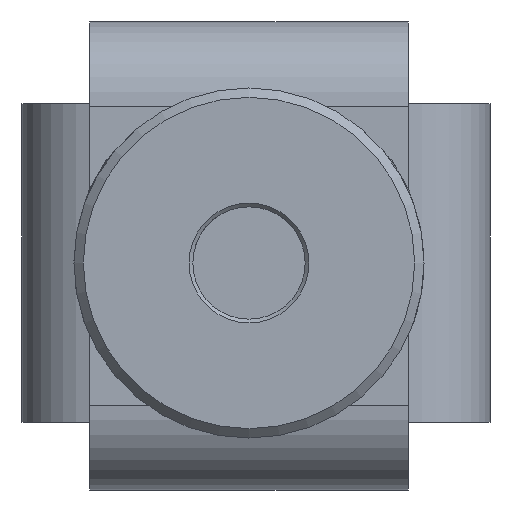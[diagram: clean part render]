
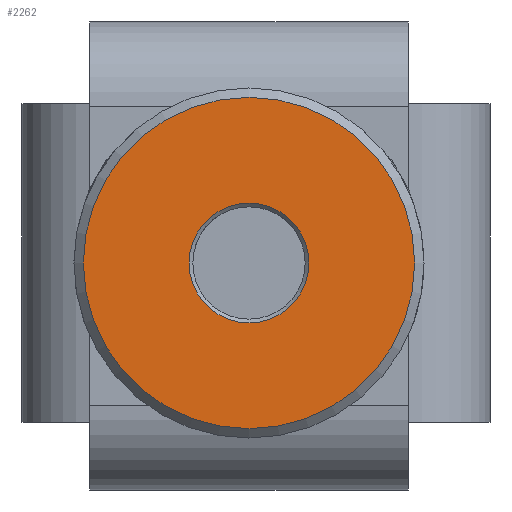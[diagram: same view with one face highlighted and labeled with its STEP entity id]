
A CAD part, front view. The second image highlights one B-rep face of the part: STEP entity #2262.
In plain terms, the highlighted planar face has unit normal (0, -1, 0).
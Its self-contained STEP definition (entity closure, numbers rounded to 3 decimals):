
#363=PLANE('',#2438);
#463=FACE_BOUND('',#698,.T.);
#529=FACE_OUTER_BOUND('',#697,.T.);
#697=EDGE_LOOP('',(#1518));
#698=EDGE_LOOP('',(#1519));
#904=CIRCLE('',#2435,3.2);
#906=CIRCLE('',#2439,8.85);
#1031=VERTEX_POINT('',#3580);
#1033=VERTEX_POINT('',#3586);
#1223=EDGE_CURVE('',#1031,#1031,#904,.T.);
#1225=EDGE_CURVE('',#1033,#1033,#906,.T.);
#1518=ORIENTED_EDGE('',*,*,#1225,.F.);
#1519=ORIENTED_EDGE('',*,*,#1223,.F.);
#2262=ADVANCED_FACE('',(#529,#463),#363,.F.);
#2435=AXIS2_PLACEMENT_3D('',#3581,#2739,#2740);
#2438=AXIS2_PLACEMENT_3D('',#3585,#2745,#2746);
#2439=AXIS2_PLACEMENT_3D('',#3587,#2747,#2748);
#2739=DIRECTION('center_axis',(0.,-1.,0.));
#2740=DIRECTION('ref_axis',(-0.5,0.,-0.866));
#2745=DIRECTION('center_axis',(0.,1.,0.));
#2746=DIRECTION('ref_axis',(-0.5,0.,-0.866));
#2747=DIRECTION('center_axis',(0.,1.,0.));
#2748=DIRECTION('ref_axis',(-0.5,0.,-0.866));
#3580=CARTESIAN_POINT('',(1.225,-15.6,2.771));
#3581=CARTESIAN_POINT('Origin',(-0.375,-15.6,0.));
#3585=CARTESIAN_POINT('Origin',(-0.375,-15.6,0.));
#3586=CARTESIAN_POINT('',(4.05,-15.6,7.664));
#3587=CARTESIAN_POINT('Origin',(-0.375,-15.6,0.));
